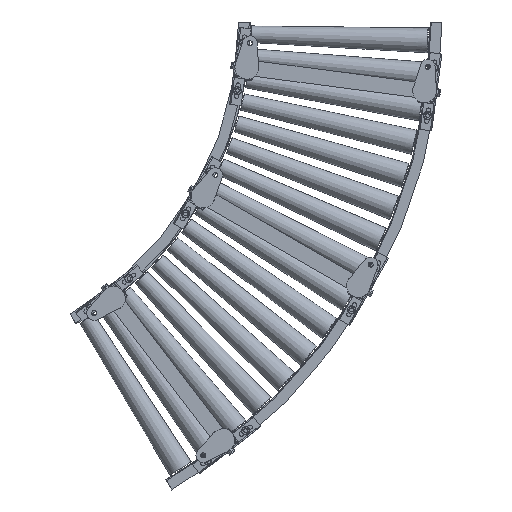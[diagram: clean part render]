
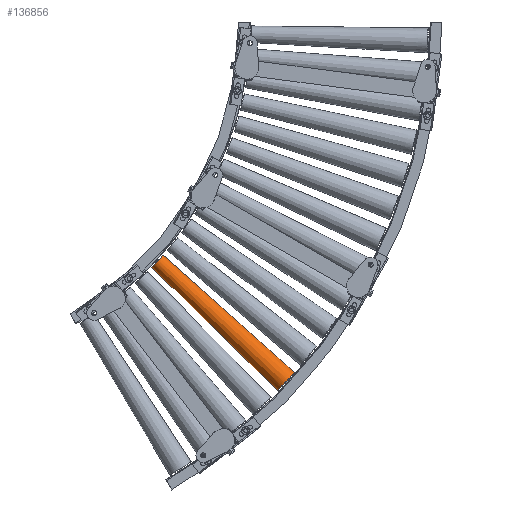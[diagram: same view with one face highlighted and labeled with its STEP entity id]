
A CAD part, front view. The second image highlights one B-rep face of the part: STEP entity #136856.
In plain terms, the highlighted conical face has half-angle 1.354 degrees and reference radius 32.1 mm.
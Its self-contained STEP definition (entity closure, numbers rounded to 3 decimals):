
#2386 = LINE ( 'NONE', #48618, #108039 ) ;
#2442 = AXIS2_PLACEMENT_3D ( 'NONE', #96554, #118076, #51022 ) ;
#3201 = DIRECTION ( 'NONE',  ( 0.746, -0.024, -0.665 ) ) ;
#13134 = DIRECTION ( 'NONE',  ( 0.714, -0.024, -0.7 ) ) ;
#16175 = CARTESIAN_POINT ( 'NONE',  ( 1014.895, -32.091, -904.676 ) ) ;
#18056 = CARTESIAN_POINT ( 'NONE',  ( 646.177, -21.344, -633.201 ) ) ;
#24827 = EDGE_CURVE ( 'NONE', #136620, #117833, #43665, .T. ) ;
#26903 = CARTESIAN_POINT ( 'NONE',  ( 675.335, -21.344, -602.006 ) ) ;
#29628 = CONICAL_SURFACE ( 'NONE', #48780, 32.1, 0.024 ) ;
#29728 = CIRCLE ( 'NONE', #2442, 21.35 ) ;
#31359 = FACE_OUTER_BOUND ( 'NONE', #120756, .T. ) ;
#32157 = EDGE_CURVE ( 'NONE', #95884, #117833, #44996, .T. ) ;
#38788 = ORIENTED_EDGE ( 'NONE', *, *, #67062, .F. ) ;
#41280 = EDGE_CURVE ( 'NONE', #69210, #95884, #2386, .T. ) ;
#43665 = LINE ( 'NONE', #83672, #45503 ) ;
#44996 = CIRCLE ( 'NONE', #108356, 32.1 ) ;
#45503 = VECTOR ( 'NONE', #3201, 1000. ) ;
#48618 = CARTESIAN_POINT ( 'NONE',  ( 971.056, -32.091, -951.578 ) ) ;
#48780 = AXIS2_PLACEMENT_3D ( 'NONE', #137396, #56809, #68847 ) ;
#50909 = DIRECTION ( 'NONE',  ( -0.73, 0.024, 0.683 ) ) ;
#51022 = DIRECTION ( 'NONE',  ( 0.683, 0., 0.731 ) ) ;
#56809 = DIRECTION ( 'NONE',  ( 0.73, -0.024, -0.683 ) ) ;
#67062 = EDGE_CURVE ( 'NONE', #69210, #136620, #29728, .T. ) ;
#68847 = DIRECTION ( 'NONE',  ( -0.683, 0., -0.731 ) ) ;
#69210 = VERTEX_POINT ( 'NONE', #18056 ) ;
#83672 = CARTESIAN_POINT ( 'NONE',  ( 1014.895, -32.091, -904.676 ) ) ;
#86994 = CARTESIAN_POINT ( 'NONE',  ( 971.056, -32.091, -951.578 ) ) ;
#95884 = VERTEX_POINT ( 'NONE', #86994 ) ;
#96554 = CARTESIAN_POINT ( 'NONE',  ( 660.756, -21.344, -617.604 ) ) ;
#100288 = ORIENTED_EDGE ( 'NONE', *, *, #32157, .T. ) ;
#108039 = VECTOR ( 'NONE', #13134, 1000. ) ;
#108356 = AXIS2_PLACEMENT_3D ( 'NONE', #130457, #50909, #142964 ) ;
#117833 = VERTEX_POINT ( 'NONE', #16175 ) ;
#118076 = DIRECTION ( 'NONE',  ( -0.73, 0.024, 0.683 ) ) ;
#120756 = EDGE_LOOP ( 'NONE', ( #133240, #38788, #133372, #100288 ) ) ;
#130457 = CARTESIAN_POINT ( 'NONE',  ( 992.975, -32.091, -928.127 ) ) ;
#133240 = ORIENTED_EDGE ( 'NONE', *, *, #24827, .F. ) ;
#133372 = ORIENTED_EDGE ( 'NONE', *, *, #41280, .T. ) ;
#136620 = VERTEX_POINT ( 'NONE', #26903 ) ;
#136856 = ADVANCED_FACE ( 'NONE', ( #31359 ), #29628, .T. ) ;
#137396 = CARTESIAN_POINT ( 'NONE',  ( 992.975, -32.091, -928.127 ) ) ;
#142964 = DIRECTION ( 'NONE',  ( 0.683, 0., 0.731 ) ) ;
